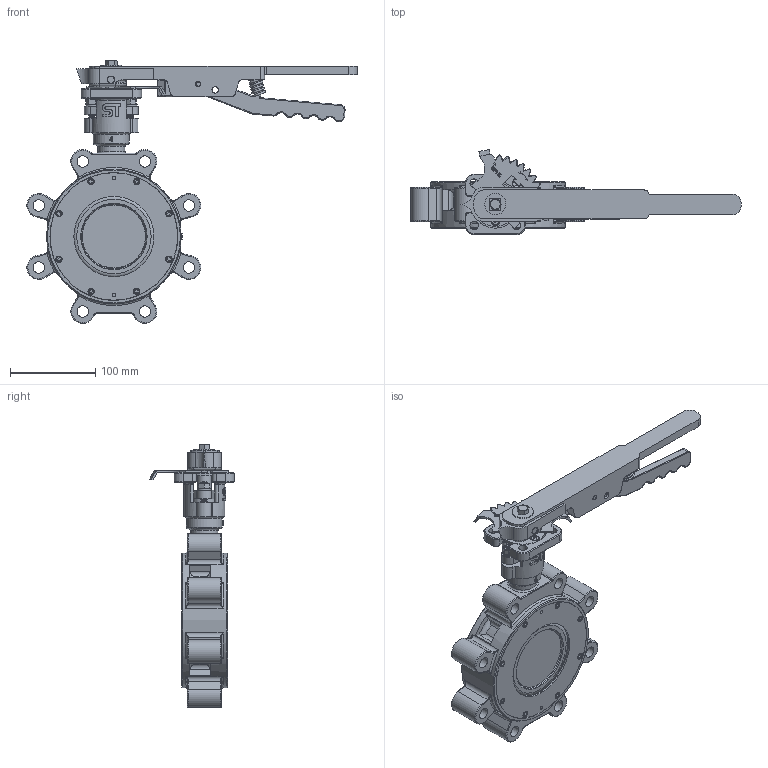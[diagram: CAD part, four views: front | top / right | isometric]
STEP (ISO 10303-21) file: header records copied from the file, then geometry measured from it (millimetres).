
FILE_DESCRIPTION(('Open CASCADE Model'),'2;1');
FILE_NAME('Open CASCADE Shape Model','2023-08-15T10:41:04',('Author'),( 'Open CASCADE'),'Open CASCADE STEP processor 7.3','Open CASCADE 7.3' ,'Unknown');
FILE_SCHEMA(('AUTOMOTIVE_DESIGN { 1 0 10303 214 1 1 1 1 }'));
Length unit declared in the file: millimetre
Products named in the file (40): Open CASCADE STEP translator 7.3 1; Open CASCADE STEP translator 7.3 1.1; Open CASCADE STEP translator 7.3 1.2; Open CASCADE STEP translator 7.3 1.3; Open CASCADE STEP translator 7.3 1.4; Open CASCADE STEP translator 7.3 1.5; Open CASCADE STEP translator 7.3 1.6; Open CASCADE STEP translator 7.3 1.7; Open CASCADE STEP translator 7.3 1.8; Open CASCADE STEP translator 7.3 1.9; Open CASCADE STEP translator 7.3 1.10; Open CASCADE STEP translator 7.3 1.11; Open CASCADE STEP translator 7.3 1.12; Open CASCADE STEP translator 7.3 1.13; Open CASCADE STEP translator 7.3 1.14; Open CASCADE STEP translator 7.3 1.15; Open CASCADE STEP translator 7.3 1.16; Open CASCADE STEP translator 7.3 1.17; Open CASCADE STEP translator 7.3 1.18; Open CASCADE STEP translator 7.3 1.19; Open CASCADE STEP translator 7.3 1.20; Open CASCADE STEP translator 7.3 1.21; Open CASCADE STEP translator 7.3 1.22; Open CASCADE STEP translator 7.3 1.23; Open CASCADE STEP translator 7.3 1.24; Open CASCADE STEP translator 7.3 1.25; Open CASCADE STEP translator 7.3 1.26; Open CASCADE STEP translator 7.3 1.27; Open CASCADE STEP translator 7.3 1.28; Open CASCADE STEP translator 7.3 1.29; Open CASCADE STEP translator 7.3 1.30; Open CASCADE STEP translator 7.3 1.31; Open CASCADE STEP translator 7.3 1.32; Open CASCADE STEP translator 7.3 1.33; Open CASCADE STEP translator 7.3 1.34; Open CASCADE STEP translator 7.3 1.35; Open CASCADE STEP translator 7.3 1.36; Open CASCADE STEP translator 7.3 1.37; Open CASCADE STEP translator 7.3 1.38; Open CASCADE STEP translator 7.3 1.39
Assembly tree (39 placements, depth 2):
  Open CASCADE STEP translator 7.3 1
    Open CASCADE STEP translator 7.3 1.1
    Open CASCADE STEP translator 7.3 1.2
    Open CASCADE STEP translator 7.3 1.3
    Open CASCADE STEP translator 7.3 1.4
    Open CASCADE STEP translator 7.3 1.5
    Open CASCADE STEP translator 7.3 1.6
    Open CASCADE STEP translator 7.3 1.7
    Open CASCADE STEP translator 7.3 1.8
    Open CASCADE STEP translator 7.3 1.9
    Open CASCADE STEP translator 7.3 1.10
    Open CASCADE STEP translator 7.3 1.11
    Open CASCADE STEP translator 7.3 1.12
    Open CASCADE STEP translator 7.3 1.13
    Open CASCADE STEP translator 7.3 1.14
    Open CASCADE STEP translator 7.3 1.15
    Open CASCADE STEP translator 7.3 1.16
    Open CASCADE STEP translator 7.3 1.17
    Open CASCADE STEP translator 7.3 1.18
    Open CASCADE STEP translator 7.3 1.19
    Open CASCADE STEP translator 7.3 1.20
    Open CASCADE STEP translator 7.3 1.21
    Open CASCADE STEP translator 7.3 1.22
    Open CASCADE STEP translator 7.3 1.23
    Open CASCADE STEP translator 7.3 1.24
    Open CASCADE STEP translator 7.3 1.25
    Open CASCADE STEP translator 7.3 1.26
    Open CASCADE STEP translator 7.3 1.27
    Open CASCADE STEP translator 7.3 1.28
    Open CASCADE STEP translator 7.3 1.29
    Open CASCADE STEP translator 7.3 1.30
    Open CASCADE STEP translator 7.3 1.31
    Open CASCADE STEP translator 7.3 1.32
    Open CASCADE STEP translator 7.3 1.33
    Open CASCADE STEP translator 7.3 1.34
    Open CASCADE STEP translator 7.3 1.35
    Open CASCADE STEP translator 7.3 1.36
    Open CASCADE STEP translator 7.3 1.37
    Open CASCADE STEP translator 7.3 1.38
    Open CASCADE STEP translator 7.3 1.39
Bounding box: 387.12 x 99.87 x 308.3 mm (x, y, z)
Volume: 1225240 mm3; surface area: 343941.9 mm2
Topology: 39 solids, 39 shells, 1453 faces, 3413 edges, 2098 vertices
Faces by surface type: plane 596, cylinder 428, cone 168, torus 165, bspline 79, sphere 15, revolution 2
Full cylindrical faces by diameter (mm): 4.134 x2, 4.2 x2, 4.5 x16, 5 x2, 6 x8, 7 x8, 7.5 x11, 8 x10, 8.376 x1, 10 x9, 13 x1, 13.376 x8, 16 x6, 16.3 x1, 16.5 x1, 17 x1, 17.6 x2, 25 x1, 27.6 x2, 28 x4, 32 x1, 42 x1, 94 x1, 98.2 x1, 98.6 x1, 104.2 x1, 106 x1, 110.8 x1, 111 x1, 112 x1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
Entity records: 148294 total; most frequent: CARTESIAN_POINT 80054, DIRECTION 12557, ORIENTED_EDGE 6756, PCURVE 6756, DEFINITIONAL_REPRESENTATION 6756, LINE 6551, VECTOR 6551, EDGE_CURVE 3378
